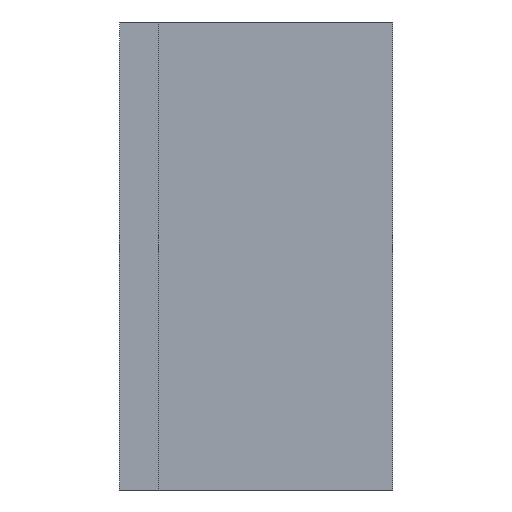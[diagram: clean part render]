
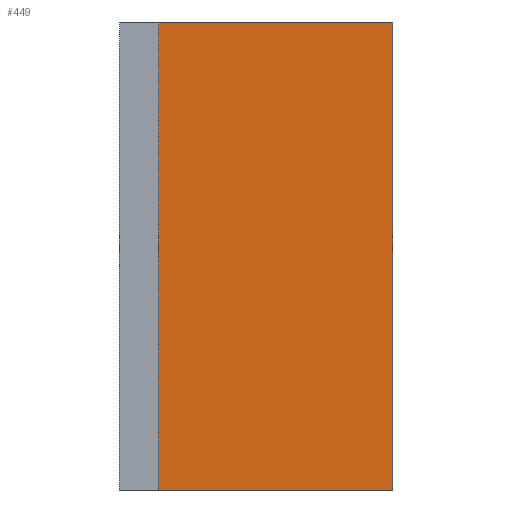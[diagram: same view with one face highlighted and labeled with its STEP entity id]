
A CAD part, left-side view. The second image highlights one B-rep face of the part: STEP entity #449.
In plain terms, the highlighted planar face has unit normal (-1, 0, 0).
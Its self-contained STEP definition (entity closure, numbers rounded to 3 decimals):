
#7 = PLANE ( 'NONE',  #274 ) ;
#10 = ORIENTED_EDGE ( 'NONE', *, *, #382, .T. ) ;
#18 = CARTESIAN_POINT ( 'NONE',  ( 0., 0., -24. ) ) ;
#19 = LINE ( 'NONE', #485, #120 ) ;
#34 = EDGE_CURVE ( 'NONE', #342, #511, #19, .T. ) ;
#77 = CARTESIAN_POINT ( 'NONE',  ( 0., 0., -24. ) ) ;
#102 = DIRECTION ( 'NONE',  ( 0., 0., 1. ) ) ;
#109 = EDGE_LOOP ( 'NONE', ( #176, #160, #359, #10 ) ) ;
#120 = VECTOR ( 'NONE', #240, 1000. ) ;
#125 = DIRECTION ( 'NONE',  ( 0., 0., 1. ) ) ;
#146 = CARTESIAN_POINT ( 'NONE',  ( 0., 0., -24. ) ) ;
#153 = EDGE_CURVE ( 'NONE', #429, #342, #524, .T. ) ;
#160 = ORIENTED_EDGE ( 'NONE', *, *, #153, .F. ) ;
#174 = VECTOR ( 'NONE', #344, 1000. ) ;
#176 = ORIENTED_EDGE ( 'NONE', *, *, #34, .F. ) ;
#225 = CARTESIAN_POINT ( 'NONE',  ( 0., 12., 0. ) ) ;
#240 = DIRECTION ( 'NONE',  ( 0., -1., 0. ) ) ;
#269 = VECTOR ( 'NONE', #102, 1000. ) ;
#274 = AXIS2_PLACEMENT_3D ( 'NONE', #302, #346, #125 ) ;
#302 = CARTESIAN_POINT ( 'NONE',  ( 0., 0., -24. ) ) ;
#305 = FACE_OUTER_BOUND ( 'NONE', #109, .T. ) ;
#318 = DIRECTION ( 'NONE',  ( 0., -1., 0. ) ) ;
#329 = CARTESIAN_POINT ( 'NONE',  ( 0., 12., -24. ) ) ;
#342 = VERTEX_POINT ( 'NONE', #225 ) ;
#344 = DIRECTION ( 'NONE',  ( 0., 0., 1. ) ) ;
#346 = DIRECTION ( 'NONE',  ( -1., 0., 0. ) ) ;
#349 = LINE ( 'NONE', #18, #269 ) ;
#359 = ORIENTED_EDGE ( 'NONE', *, *, #374, .T. ) ;
#374 = EDGE_CURVE ( 'NONE', #429, #464, #388, .T. ) ;
#382 = EDGE_CURVE ( 'NONE', #464, #511, #349, .T. ) ;
#388 = LINE ( 'NONE', #146, #472 ) ;
#391 = CARTESIAN_POINT ( 'NONE',  ( 0., 0., 0. ) ) ;
#429 = VERTEX_POINT ( 'NONE', #527 ) ;
#449 = ADVANCED_FACE ( 'NONE', ( #305 ), #7, .T. ) ;
#464 = VERTEX_POINT ( 'NONE', #77 ) ;
#472 = VECTOR ( 'NONE', #318, 1000. ) ;
#485 = CARTESIAN_POINT ( 'NONE',  ( 0., 0., 0. ) ) ;
#511 = VERTEX_POINT ( 'NONE', #391 ) ;
#524 = LINE ( 'NONE', #329, #174 ) ;
#527 = CARTESIAN_POINT ( 'NONE',  ( 0., 12., -24. ) ) ;
